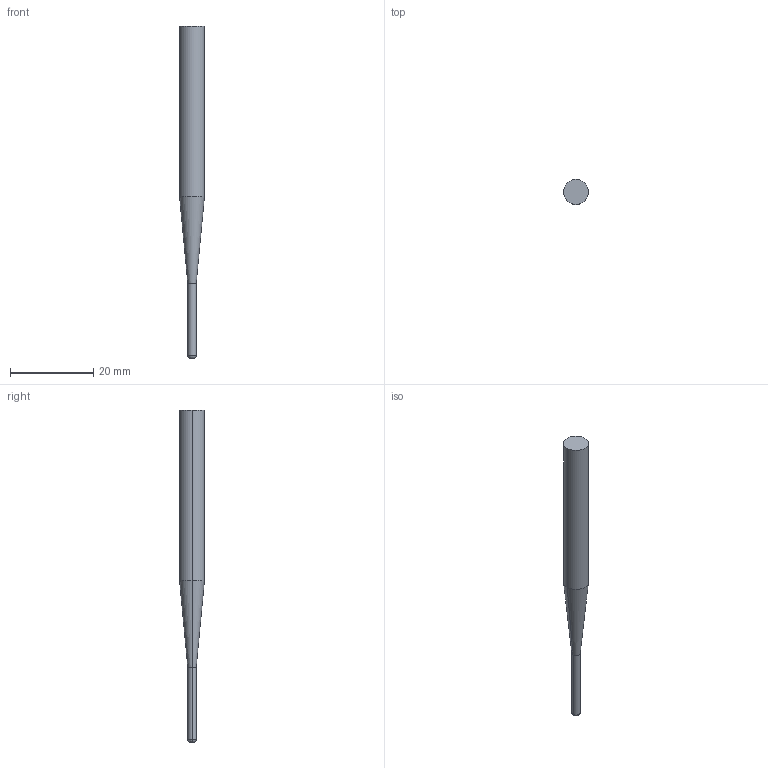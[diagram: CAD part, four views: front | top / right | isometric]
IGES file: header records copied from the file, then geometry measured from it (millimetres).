
Start section: 3D InterOp IGES (v. 2020 1.0.1), Spatial Corp. Copyright (c) 1999-2017.
Global section: file name: WZF17426_2_0.5.igs; native system: Spatial Corp.; preprocessor: 3D InterOp GENERIC/IGES 3.0; author: Noname; organization: Noname; date: 20201007.092647; units: metre
Bounding box: 6 x 6 x 80 mm (x, y, z)
Surface area: 1181 mm2 (no closed solid volume)
Topology: 0 solids, 0 shells, 10 faces, 36 edges, 36 vertices
Faces by surface type: revolution 8, extrusion 2
